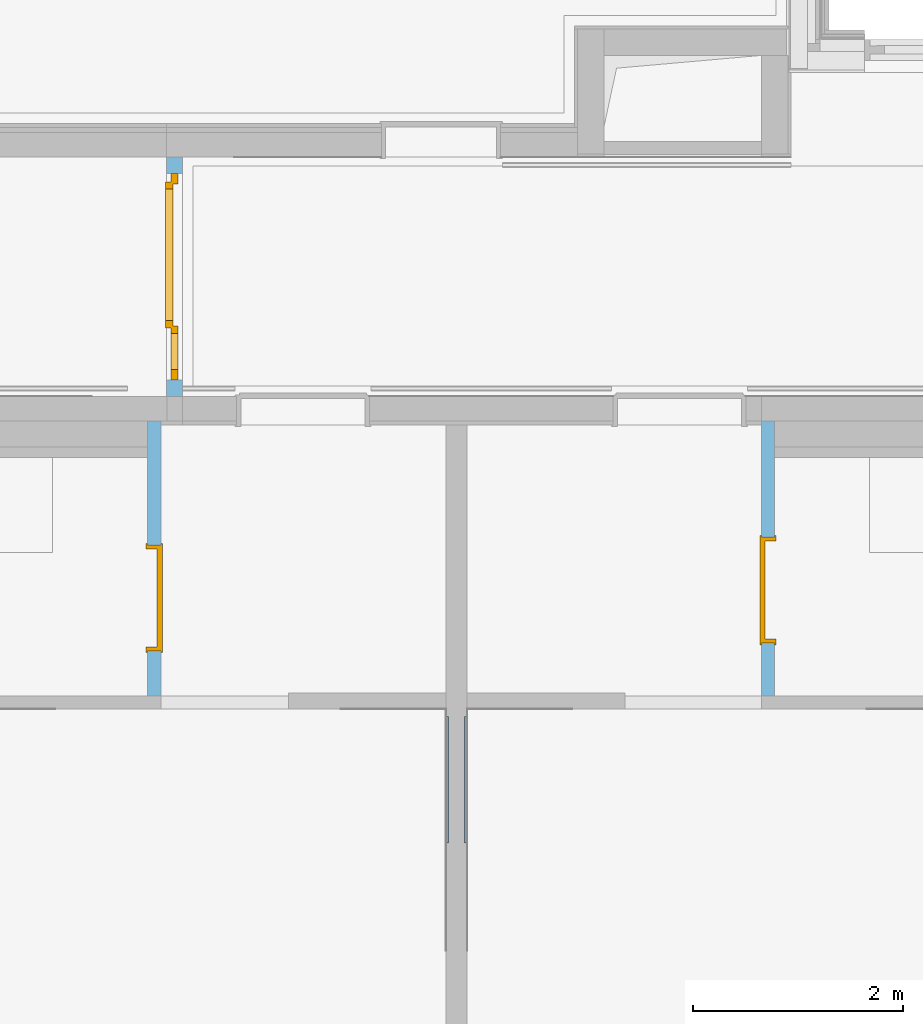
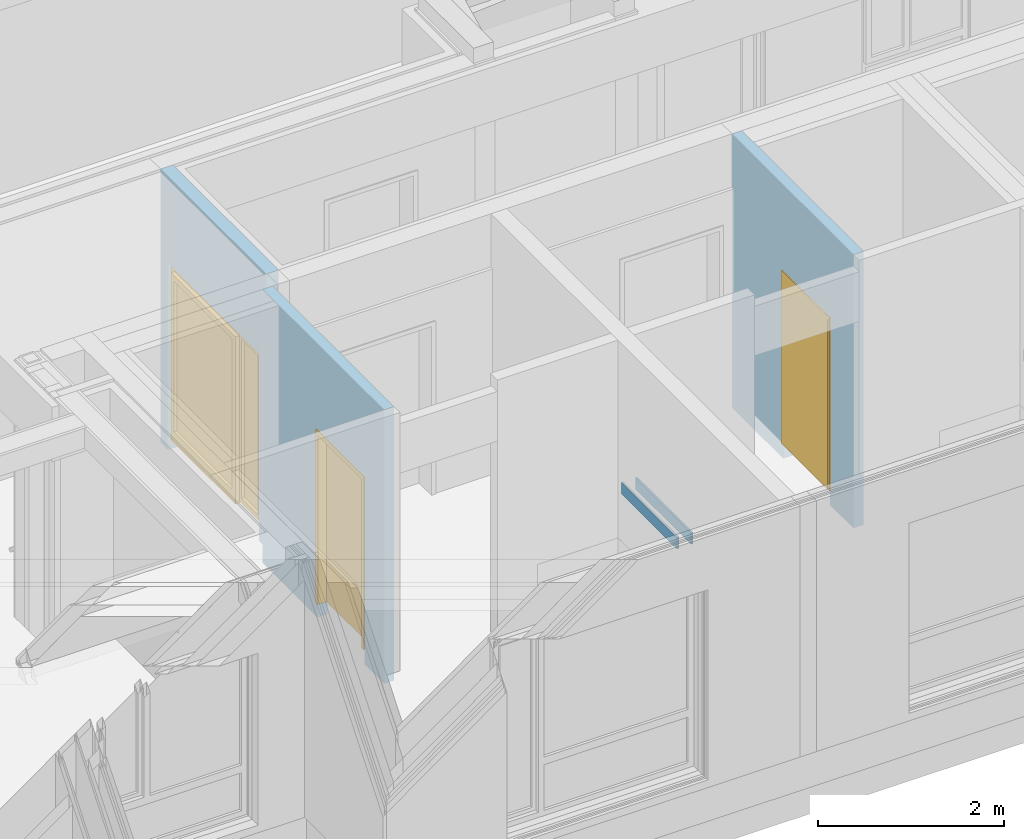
# One storey, part 122 of 207: 3 doors, 2 walls, 3 openings, plus 3 elements that do not belong to this part.
"""IFC4 building model written with IfcOpenShell, lengths in metres."""

from ifc_helpers import new_model, entity, si_unit, converted_unit, derived_unit, frame, frame_2d, origin, origin_with_axes, place, context, subcontext, project, spatial, polyline, rectangle, outline, extrude, closed_shell, open_shell, faceted_brep, surface_model, source, transform, mapped, material, type_object, element, fill, save


model = new_model("IFC4")

# Units and contexts
model_context = context("Model", 3, precision=1e-05, world=origin())
body_context = subcontext(model_context, "Body", "Model", "MODEL_VIEW")
ifc_project = project(units=[si_unit("LENGTHUNIT", "METRE"), si_unit("AREAUNIT", "SQUARE_METRE"), si_unit("VOLUMEUNIT", "CUBIC_METRE"), si_unit("MASSUNIT", "GRAM", prefix="KILO"), converted_unit("PLANEANGLEUNIT", "DEGREE", entity("IfcPlaneAngleMeasure", 0.0174532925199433), si_unit("PLANEANGLEUNIT", "RADIAN"), dimensions=[0, 0, 0, 0, 0, 0, 0]), derived_unit("THERMALTRANSMITTANCEUNIT", [(si_unit("POWERUNIT", "WATT"), 1), (si_unit("THERMODYNAMICTEMPERATUREUNIT", "KELVIN"), -1), (si_unit("LENGTHUNIT", "METRE"), -2)]), derived_unit("VOLUMETRICFLOWRATEUNIT", [(si_unit("LENGTHUNIT", "METRE"), 3), (converted_unit("TIMEUNIT", "hour", entity("IfcTimeMeasure", 3600.0), si_unit("TIMEUNIT", "SECOND"), dimensions=[0, 0, 1, 0, 0, 0, 0]), -1), (si_unit("LENGTHUNIT", "METRE"), -1)])], contexts=[model_context])

# Site, building, storey
site_placement = place(None, origin())
site = spatial("IfcSite", under=ifc_project, at=site_placement, Name="Psychiatrie Neubau Wunstorf", CompositionType="ELEMENT")
building_placement = place(site_placement, origin())
building = spatial("IfcBuilding", under=site, at=building_placement, Name="Neubau H2 Stationsgebäude", CompositionType="ELEMENT")
storey_placement = place(building_placement, frame((0.0, 0.0, -0.2)))
storey = spatial("IfcBuildingStorey", under=building, at=storey_placement, Name="H2 Ebene 0", CompositionType="ELEMENT", Elevation=-0.2)

# Walls
for number, where, name in (
    (1, (75.9, 1.08720005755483, 1.625), "WV 1.1"),
    (2, (76.075, 1.08720000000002, 1.625), "WV 1.1"),
):
    element("IfcWall", number, at=place(storey_placement, frame(where)), inside=storey, Name=name, context=body_context, shape_type="Brep", body=[
        faceted_brep([(0.025, 1.2, 0.0), (0.0, 1.2, 0.0), (0.0, 0.0, 0.0), (0.025, 0.0, 0.0), (0.0, 1.2, 0.15), (0.025, 1.2, 0.15), (0.025, 0.0, 0.15), (0.0, 0.0, 0.15)], [[[0, 1, 2, 3]], [[4, 5, 6, 7]], [[1, 0, 5, 4]], [[2, 1, 4, 7]], [[3, 2, 7, 6]], [[0, 3, 6, 5]]], orient=[[False], [False], [False], [False], [False], [False]]),
    ])

# Wall, opening, door
ifc_material_1 = material(Name="WI-LB")
wall_1_placement = place(storey_placement, frame((78.9, 5.1005, 0.0), z_axis=(0.0, 0.0, 1.0), x_axis=(0.0, -1.0, 0.0)))
wall_1 = element("IfcWall", 3, at=wall_1_placement, inside=storey, material=ifc_material_1, context=body_context, shape_type="SweptSolid", body=[
    extrude(rectangle(XDim=2.615, YDim=0.125, at=frame_2d((1.3075, 0.0625), x_axis=(1.0, 0.0))), origin_with_axes(), (0.0, 0.0, 1.0), 3.6),
])
opening_1_placement = place(wall_1_placement, frame((2.115, 0.125, 0.0), z_axis=(0.0, -1.0, 0.0), x_axis=(0.0, 0.0, 1.0)))
opening_1 = element("IfcOpeningElement", 4, at=opening_1_placement, cuts=wall_1, Name="Türöffnung", ObjectType="Opening", context=body_context, shape_type="SweptSolid", body=[
    extrude(outline(polyline([(2.46, 1.01), (2.46, 0.0), (0.0, 0.0), (0.0, 1.01), (2.46, 1.01)])), origin_with_axes(), (0.0, 0.0, 1.0), 0.125),
])
ifc_material_2 = material(Name="TI-1F-UZ-D-N")
door_type_1 = type_object("IfcDoorType", Name="SMT", OperationType="SINGLE_SWING_RIGHT", ParameterTakesPrecedence=False, PredefinedType="DOOR")
shared_shape_1 = source(origin_with_axes(), body_context, "Body", "Brep", [
    faceted_brep([(1.05, 0.0125000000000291, 0.0), (1.05, 0.112500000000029, 0.0), (1.01, 0.112500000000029, 0.0), (1.01, 0.0125000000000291, 0.0), (1.05, 0.112500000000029, 3.6), (1.05, 0.0125000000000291, 3.6), (1.01, 0.0125000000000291, 3.6), (1.01, 0.112500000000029, 3.6)], [[[0, 1, 2, 3]], [[4, 5, 6, 7]], [[1, 0, 5, 4]], [[2, 1, 4, 7]], [[3, 2, 7, 6]], [[0, 3, 6, 5]]], orient=[[False], [False], [False], [False], [False], [False]]),
    faceted_brep([(0.0, 0.0125000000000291, 0.0), (0.0, 0.112500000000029, 0.0), (-0.0400000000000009, 0.112500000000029, 0.0), (-0.0400000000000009, 0.0125000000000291, 0.0), (0.0, 0.112500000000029, 3.6), (0.0, 0.0125000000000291, 3.6), (-0.0400000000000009, 0.0125000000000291, 3.6), (-0.0400000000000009, 0.112500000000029, 3.6)], [[[0, 1, 2, 3]], [[4, 5, 6, 7]], [[1, 0, 5, 4]], [[2, 1, 4, 7]], [[3, 2, 7, 6]], [[0, 3, 6, 5]]], orient=[[False], [False], [False], [False], [False], [False]]),
    faceted_brep([(1.01, 0.0125000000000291, 2.46), (1.01, 0.112500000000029, 2.46), (0.0, 0.112500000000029, 2.46), (0.0, 0.0125000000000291, 2.46), (1.01, 0.112500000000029, 2.5), (1.01, 0.0125000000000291, 2.5), (0.0, 0.0125000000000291, 2.5), (0.0, 0.112500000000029, 2.5)], [[[0, 1, 2, 3]], [[4, 5, 6, 7]], [[1, 0, 5, 4]], [[2, 1, 4, 7]], [[3, 2, 7, 6]], [[0, 3, 6, 5]]], orient=[[False], [False], [False], [False], [False], [False]]),
])
shared_shape_2 = source(origin_with_axes(), body_context, "Body", "Brep", [
    faceted_brep([(1.01, -0.0149999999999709, 2.46), (1.01, -0.0149999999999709, 0.2), (0.969999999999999, -0.0149999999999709, 0.2), (0.969999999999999, -0.0149999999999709, 2.46), (1.01, 0.140000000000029, 0.2), (1.01, 0.140000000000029, 2.46), (0.969999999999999, 0.140000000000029, 2.46), (0.969999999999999, 0.140000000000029, 0.2)], [[[0, 1, 2, 3]], [[4, 5, 6, 7]], [[1, 0, 5, 4]], [[2, 1, 4, 7]], [[3, 2, 7, 6]], [[0, 3, 6, 5]]], orient=[[False], [False], [False], [False], [False], [False]]),
    faceted_brep([(1.01, -0.0149999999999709, 2.475), (1.025, -0.0149999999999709, 2.475), (1.025, -0.0149999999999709, 0.2), (1.01, -0.0149999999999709, 0.2), (1.01, 0.0, 0.2), (1.025, 0.0, 0.2), (1.025, 0.0, 2.475), (1.01, 0.0, 2.475)], [[[0, 1, 2, 3]], [[4, 5, 6, 7]], [[3, 4, 7, 0]], [[2, 5, 4, 3]], [[1, 6, 5, 2]], [[0, 7, 6, 1]]], orient=[[False], [False], [False], [False], [False], [False]]),
    faceted_brep([(1.01, 0.125000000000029, 2.475), (1.025, 0.125000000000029, 2.475), (1.025, 0.125000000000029, 0.2), (1.01, 0.125000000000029, 0.2), (1.01, 0.140000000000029, 0.2), (1.025, 0.140000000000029, 0.2), (1.025, 0.140000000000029, 2.475), (1.01, 0.140000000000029, 2.475)], [[[0, 1, 2, 3]], [[4, 5, 6, 7]], [[3, 4, 7, 0]], [[2, 5, 4, 3]], [[1, 6, 5, 2]], [[0, 7, 6, 1]]], orient=[[False], [False], [False], [False], [False], [False]]),
    faceted_brep([(0.0399999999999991, -0.0149999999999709, 2.46), (0.0399999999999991, -0.0149999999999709, 0.2), (0.0, -0.0149999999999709, 0.2), (0.0, -0.0149999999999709, 2.46), (0.0399999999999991, 0.140000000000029, 0.2), (0.0399999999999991, 0.140000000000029, 2.46), (0.0, 0.140000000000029, 2.46), (0.0, 0.140000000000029, 0.2)], [[[0, 1, 2, 3]], [[4, 5, 6, 7]], [[1, 0, 5, 4]], [[2, 1, 4, 7]], [[3, 2, 7, 6]], [[0, 3, 6, 5]]], orient=[[False], [False], [False], [False], [False], [False]]),
    faceted_brep([(0.0, -0.0149999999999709, 2.475), (0.0, -0.0149999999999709, 0.2), (-0.0150000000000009, -0.0149999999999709, 0.2), (-0.0150000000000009, -0.0149999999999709, 2.475), (0.0, 0.0, 0.2), (0.0, 0.0, 2.475), (-0.0150000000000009, 0.0, 2.475), (-0.0150000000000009, 0.0, 0.2)], [[[0, 1, 2, 3]], [[4, 5, 6, 7]], [[1, 0, 5, 4]], [[2, 1, 4, 7]], [[3, 2, 7, 6]], [[0, 3, 6, 5]]], orient=[[False], [False], [False], [False], [False], [False]]),
    faceted_brep([(0.0, 0.125000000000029, 2.475), (0.0, 0.125000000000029, 0.2), (-0.0150000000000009, 0.125000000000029, 0.2), (-0.0150000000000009, 0.125000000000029, 2.475), (0.0, 0.140000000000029, 0.2), (0.0, 0.140000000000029, 2.475), (-0.0150000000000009, 0.140000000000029, 2.475), (-0.0150000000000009, 0.140000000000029, 0.2)], [[[0, 1, 2, 3]], [[4, 5, 6, 7]], [[1, 0, 5, 4]], [[2, 1, 4, 7]], [[3, 2, 7, 6]], [[0, 3, 6, 5]]], orient=[[False], [False], [False], [False], [False], [False]]),
    faceted_brep([(0.969999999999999, -0.0149999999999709, 2.46), (0.969999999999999, -0.0149999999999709, 2.42), (0.0399999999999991, -0.0149999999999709, 2.42), (0.0399999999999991, -0.0149999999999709, 2.46), (0.969999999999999, 0.140000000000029, 2.42), (0.969999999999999, 0.140000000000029, 2.46), (0.0399999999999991, 0.140000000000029, 2.46), (0.0399999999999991, 0.140000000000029, 2.42)], [[[0, 1, 2, 3]], [[4, 5, 6, 7]], [[1, 0, 5, 4]], [[2, 1, 4, 7]], [[3, 2, 7, 6]], [[0, 3, 6, 5]]], orient=[[False], [False], [False], [False], [False], [False]]),
    faceted_brep([(1.01, -0.0149999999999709, 2.475), (1.01, -0.0149999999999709, 2.46), (0.0, -0.0149999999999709, 2.46), (0.0, -0.0149999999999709, 2.475), (1.01, 0.0, 2.46), (1.01, 0.0, 2.475), (0.0, 0.0, 2.475), (0.0, 0.0, 2.46)], [[[0, 1, 2, 3]], [[4, 5, 6, 7]], [[1, 0, 5, 4]], [[2, 1, 4, 7]], [[3, 2, 7, 6]], [[0, 3, 6, 5]]], orient=[[False], [False], [False], [False], [False], [False]]),
    faceted_brep([(1.01, 0.125000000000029, 2.475), (1.01, 0.125000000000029, 2.46), (0.0, 0.125000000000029, 2.46), (0.0, 0.125000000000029, 2.475), (1.01, 0.140000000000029, 2.46), (1.01, 0.140000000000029, 2.475), (0.0, 0.140000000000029, 2.475), (0.0, 0.140000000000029, 2.46)], [[[0, 1, 2, 3]], [[4, 5, 6, 7]], [[1, 0, 5, 4]], [[2, 1, 4, 7]], [[3, 2, 7, 6]], [[0, 3, 6, 5]]], orient=[[False], [False], [False], [False], [False], [False]]),
    faceted_brep([(0.984999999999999, 0.0910000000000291, 2.435), (0.984999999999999, 0.0910000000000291, 0.2), (0.0249999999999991, 0.0910000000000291, 0.2), (0.0249999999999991, 0.0910000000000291, 2.435), (0.984999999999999, 0.141000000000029, 0.2), (0.984999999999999, 0.141000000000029, 2.435), (0.0249999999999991, 0.141000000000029, 2.435), (0.0249999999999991, 0.141000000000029, 0.2)], [[[0, 1, 2, 3]], [[4, 5, 6, 7]], [[1, 0, 5, 4]], [[2, 1, 4, 7]], [[3, 2, 7, 6]], [[0, 3, 6, 5]]], orient=[[False], [False], [False], [False], [False], [False]]),
])
door_1_placement = place(opening_1_placement, frame((0.0, 0.0, 0.0), z_axis=(1.0, 0.0, 0.0), x_axis=(0.0, 1.0, 0.0)))
door_1 = element("IfcDoor", 5, at=door_1_placement, inside=storey, type_object=door_type_1, material=ifc_material_2, Name="SMT", OverallHeight=2.46, OverallWidth=1.01, context=body_context, shape_type="MappedRepresentation", body=[
    mapped(shared_shape_1, transform((0.0, 0.0, 0.0), x_axis=(1.0, 0.0, 0.0), y_axis=(0.0, 1.0, 0.0), z_axis=(0.0, 0.0, 1.0), scale=1.0)),
    mapped(shared_shape_2, transform((0.0, 0.0, 0.0), x_axis=(1.0, 0.0, 0.0), y_axis=(0.0, 1.0, 0.0), z_axis=(0.0, 0.0, 1.0), scale=1.0)),
])
fill(opening_1, door_1)

ifc_material_3 = material(Name="WI-LB")
wall_2_placement = place(storey_placement, frame((73.1875, 2.4855, 0.0), z_axis=(0.0, 0.0, 1.0), x_axis=(0.0, 1.0, 0.0)))
wall_2 = element("IfcWall", 6, at=wall_2_placement, inside=storey, material=ifc_material_3, context=body_context, shape_type="SweptSolid", body=[
    extrude(rectangle(XDim=2.615, YDim=0.125, at=frame_2d((1.3075, 0.0625), x_axis=(1.0, 0.0))), origin_with_axes(), (0.0, 0.0, 1.0), 3.6),
])
opening_2_placement = place(wall_2_placement, frame((1.435, 0.125, 0.0), z_axis=(0.0, -1.0, 0.0), x_axis=(0.0, 0.0, 1.0)))
opening_2 = element("IfcOpeningElement", 7, at=opening_2_placement, cuts=wall_2, Name="Türöffnung", ObjectType="Opening", context=body_context, shape_type="SweptSolid", body=[
    extrude(outline(polyline([(2.46, 1.01), (2.46, 0.0), (0.0, 0.0), (0.0, 1.01), (2.46, 1.01)])), origin_with_axes(), (0.0, 0.0, 1.0), 0.125),
])
ifc_material_4 = material(Name="TI-1F-UZ-D-N")
door_type_2 = type_object("IfcDoorType", Name="SMT", OperationType="SINGLE_SWING_RIGHT", ParameterTakesPrecedence=False, PredefinedType="DOOR")
shared_shape_3 = source(origin_with_axes(), body_context, "Body", "Brep", [
    faceted_brep([(-0.0399999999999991, 0.0124999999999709, 0.0), (0.0, 0.0124999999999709, 0.0), (0.0, 0.112499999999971, 0.0), (-0.0399999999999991, 0.112499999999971, 0.0), (-0.0399999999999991, 0.112499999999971, 3.6), (0.0, 0.112499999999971, 3.6), (0.0, 0.0124999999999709, 3.6), (-0.0399999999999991, 0.0124999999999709, 3.6)], [[[0, 1, 2, 3]], [[4, 5, 6, 7]], [[3, 4, 7, 0]], [[2, 5, 4, 3]], [[1, 6, 5, 2]], [[0, 7, 6, 1]]], orient=[[False], [False], [False], [False], [False], [False]]),
    faceted_brep([(1.01, 0.0124999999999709, 0.0), (1.05, 0.0124999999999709, 0.0), (1.05, 0.112499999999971, 0.0), (1.01, 0.112499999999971, 0.0), (1.01, 0.112499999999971, 3.6), (1.05, 0.112499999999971, 3.6), (1.05, 0.0124999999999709, 3.6), (1.01, 0.0124999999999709, 3.6)], [[[0, 1, 2, 3]], [[4, 5, 6, 7]], [[3, 4, 7, 0]], [[2, 5, 4, 3]], [[1, 6, 5, 2]], [[0, 7, 6, 1]]], orient=[[False], [False], [False], [False], [False], [False]]),
    faceted_brep([(0.0, 0.0124999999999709, 2.46), (1.01, 0.0124999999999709, 2.46), (1.01, 0.112499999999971, 2.46), (0.0, 0.112499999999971, 2.46), (0.0, 0.112499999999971, 2.5), (1.01, 0.112499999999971, 2.5), (1.01, 0.0124999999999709, 2.5), (0.0, 0.0124999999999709, 2.5)], [[[0, 1, 2, 3]], [[4, 5, 6, 7]], [[3, 4, 7, 0]], [[2, 5, 4, 3]], [[1, 6, 5, 2]], [[0, 7, 6, 1]]], orient=[[False], [False], [False], [False], [False], [False]]),
])
shared_shape_4 = source(origin_with_axes(), body_context, "Body", "Brep", [
    faceted_brep([(0.0, -0.0150000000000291, 2.46), (0.0400000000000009, -0.0150000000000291, 2.46), (0.0400000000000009, -0.0150000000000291, 0.2), (0.0, -0.0150000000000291, 0.2), (0.0, 0.139999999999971, 0.2), (0.0400000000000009, 0.139999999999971, 0.2), (0.0400000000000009, 0.139999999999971, 2.46), (0.0, 0.139999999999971, 2.46)], [[[0, 1, 2, 3]], [[4, 5, 6, 7]], [[3, 4, 7, 0]], [[2, 5, 4, 3]], [[1, 6, 5, 2]], [[0, 7, 6, 1]]], orient=[[False], [False], [False], [False], [False], [False]]),
    faceted_brep([(0.0, -0.0150000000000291, 2.475), (0.0, -0.0150000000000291, 0.2), (-0.0149999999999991, -0.0150000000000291, 0.2), (-0.0149999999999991, -0.0150000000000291, 2.475), (0.0, 0.0, 0.2), (0.0, 0.0, 2.475), (-0.0149999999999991, 0.0, 2.475), (-0.0149999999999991, 0.0, 0.2)], [[[0, 1, 2, 3]], [[4, 5, 6, 7]], [[1, 0, 5, 4]], [[2, 1, 4, 7]], [[3, 2, 7, 6]], [[0, 3, 6, 5]]], orient=[[False], [False], [False], [False], [False], [False]]),
    faceted_brep([(0.0, 0.124999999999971, 2.475), (0.0, 0.124999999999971, 0.2), (-0.0149999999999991, 0.124999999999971, 0.2), (-0.0149999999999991, 0.124999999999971, 2.475), (0.0, 0.139999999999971, 0.2), (0.0, 0.139999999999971, 2.475), (-0.0149999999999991, 0.139999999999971, 2.475), (-0.0149999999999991, 0.139999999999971, 0.2)], [[[0, 1, 2, 3]], [[4, 5, 6, 7]], [[1, 0, 5, 4]], [[2, 1, 4, 7]], [[3, 2, 7, 6]], [[0, 3, 6, 5]]], orient=[[False], [False], [False], [False], [False], [False]]),
    faceted_brep([(0.970000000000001, -0.0150000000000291, 2.46), (1.01, -0.0150000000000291, 2.46), (1.01, -0.0150000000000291, 0.2), (0.970000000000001, -0.0150000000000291, 0.2), (0.970000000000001, 0.139999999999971, 0.2), (1.01, 0.139999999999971, 0.2), (1.01, 0.139999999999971, 2.46), (0.970000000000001, 0.139999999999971, 2.46)], [[[0, 1, 2, 3]], [[4, 5, 6, 7]], [[3, 4, 7, 0]], [[2, 5, 4, 3]], [[1, 6, 5, 2]], [[0, 7, 6, 1]]], orient=[[False], [False], [False], [False], [False], [False]]),
    faceted_brep([(1.01, -0.0150000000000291, 2.475), (1.025, -0.0150000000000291, 2.475), (1.025, -0.0150000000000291, 0.2), (1.01, -0.0150000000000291, 0.2), (1.01, 0.0, 0.2), (1.025, 0.0, 0.2), (1.025, 0.0, 2.475), (1.01, 0.0, 2.475)], [[[0, 1, 2, 3]], [[4, 5, 6, 7]], [[3, 4, 7, 0]], [[2, 5, 4, 3]], [[1, 6, 5, 2]], [[0, 7, 6, 1]]], orient=[[False], [False], [False], [False], [False], [False]]),
    faceted_brep([(1.01, 0.124999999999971, 2.475), (1.025, 0.124999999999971, 2.475), (1.025, 0.124999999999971, 0.2), (1.01, 0.124999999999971, 0.2), (1.01, 0.139999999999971, 0.2), (1.025, 0.139999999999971, 0.2), (1.025, 0.139999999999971, 2.475), (1.01, 0.139999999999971, 2.475)], [[[0, 1, 2, 3]], [[4, 5, 6, 7]], [[3, 4, 7, 0]], [[2, 5, 4, 3]], [[1, 6, 5, 2]], [[0, 7, 6, 1]]], orient=[[False], [False], [False], [False], [False], [False]]),
    faceted_brep([(0.0400000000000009, -0.0150000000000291, 2.46), (0.970000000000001, -0.0150000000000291, 2.46), (0.970000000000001, -0.0150000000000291, 2.42), (0.0400000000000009, -0.0150000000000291, 2.42), (0.0400000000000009, 0.139999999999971, 2.42), (0.970000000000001, 0.139999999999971, 2.42), (0.970000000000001, 0.139999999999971, 2.46), (0.0400000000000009, 0.139999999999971, 2.46)], [[[0, 1, 2, 3]], [[4, 5, 6, 7]], [[3, 4, 7, 0]], [[2, 5, 4, 3]], [[1, 6, 5, 2]], [[0, 7, 6, 1]]], orient=[[False], [False], [False], [False], [False], [False]]),
    faceted_brep([(0.0, -0.0150000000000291, 2.475), (1.01, -0.0150000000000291, 2.475), (1.01, -0.0150000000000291, 2.46), (0.0, -0.0150000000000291, 2.46), (0.0, 0.0, 2.46), (1.01, 0.0, 2.46), (1.01, 0.0, 2.475), (0.0, 0.0, 2.475)], [[[0, 1, 2, 3]], [[4, 5, 6, 7]], [[3, 4, 7, 0]], [[2, 5, 4, 3]], [[1, 6, 5, 2]], [[0, 7, 6, 1]]], orient=[[False], [False], [False], [False], [False], [False]]),
    faceted_brep([(0.0, 0.124999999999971, 2.475), (1.01, 0.124999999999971, 2.475), (1.01, 0.124999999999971, 2.46), (0.0, 0.124999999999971, 2.46), (0.0, 0.139999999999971, 2.46), (1.01, 0.139999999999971, 2.46), (1.01, 0.139999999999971, 2.475), (0.0, 0.139999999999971, 2.475)], [[[0, 1, 2, 3]], [[4, 5, 6, 7]], [[3, 4, 7, 0]], [[2, 5, 4, 3]], [[1, 6, 5, 2]], [[0, 7, 6, 1]]], orient=[[False], [False], [False], [False], [False], [False]]),
    faceted_brep([(0.0250000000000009, 0.0909999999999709, 2.435), (0.985000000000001, 0.0909999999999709, 2.435), (0.985000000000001, 0.0909999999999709, 0.2), (0.0250000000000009, 0.0909999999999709, 0.2), (0.0250000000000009, 0.140999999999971, 0.2), (0.985000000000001, 0.140999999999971, 0.2), (0.985000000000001, 0.140999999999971, 2.435), (0.0250000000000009, 0.140999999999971, 2.435)], [[[0, 1, 2, 3]], [[4, 5, 6, 7]], [[3, 4, 7, 0]], [[2, 5, 4, 3]], [[1, 6, 5, 2]], [[0, 7, 6, 1]]], orient=[[False], [False], [False], [False], [False], [False]]),
])
door_2_placement = place(opening_2_placement, frame((0.0, 0.0, 0.0), z_axis=(1.0, 0.0, 0.0), x_axis=(0.0, 1.0, 0.0)))
door_2 = element("IfcDoor", 8, at=door_2_placement, inside=storey, type_object=door_type_2, material=ifc_material_4, Name="SMT", OverallHeight=2.46, OverallWidth=1.01, context=body_context, shape_type="MappedRepresentation", body=[
    mapped(shared_shape_3, transform((0.0, 0.0, 0.0), x_axis=(1.0, 0.0, 0.0), y_axis=(0.0, 1.0, 0.0), z_axis=(0.0, 0.0, 1.0), scale=1.0)),
    mapped(shared_shape_4, transform((0.0, 0.0, 0.0), x_axis=(1.0, 0.0, 0.0), y_axis=(0.0, 1.0, 0.0), z_axis=(0.0, 0.0, 1.0), scale=1.0)),
])
fill(opening_2, door_2)

ifc_material_5 = material(Name="WI-LB")
wall_3_placement = place(storey_placement, frame((73.3949999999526, 5.3325, 0.0), z_axis=(0.0, 0.0, 1.0), x_axis=(0.0, 1.0, 0.0)))
wall_3 = element("IfcWall", 9, at=wall_3_placement, inside=storey, material=ifc_material_5, context=body_context, shape_type="SweptSolid", body=[
    extrude(rectangle(XDim=2.275, YDim=0.155, at=frame_2d((1.1375, 0.0775), x_axis=(1.0, 0.0))), origin_with_axes(), (0.0, 0.0, 1.0), 3.6),
])
opening_3_placement = place(wall_3_placement, frame((0.155000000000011, 0.0, 0.0), z_axis=(0.0, 1.0, 0.0), x_axis=(0.0, 0.0, 1.0)))
opening_3 = element("IfcOpeningElement", 10, at=opening_3_placement, cuts=wall_3, Name="Türöffnung", ObjectType="Opening", context=body_context, shape_type="SweptSolid", body=[
    extrude(outline(polyline([(2.46, 1.965), (2.46, 0.0), (0.0, 0.0), (0.0, 1.965), (2.46, 1.965)])), origin_with_axes(), (0.0, 0.0, 1.0), 0.155),
])
ifc_material_6 = material(Name="TI-2F-AG-D-O")
shared_shape_5 = source(origin_with_axes(), body_context, "Body", "Brep", [
    faceted_brep([(2.0925, -0.0144999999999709, 0.0), (2.0925, 0.0855000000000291, 0.0), (1.9925, 0.0855000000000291, 0.0), (1.9925, -0.0144999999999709, 0.0), (2.0925, 0.0855000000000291, 3.6), (2.0925, -0.0144999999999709, 3.6), (1.9925, -0.0144999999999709, 3.6), (1.9925, 0.0855000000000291, 3.6)], [[[0, 1, 2, 3]], [[4, 5, 6, 7]], [[1, 0, 5, 4]], [[2, 1, 4, 7]], [[3, 2, 7, 6]], [[0, 3, 6, 5]]], orient=[[False], [False], [False], [False], [False], [False]]),
    faceted_brep([(-0.0275000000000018, -0.0144999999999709, 0.0), (-0.0275000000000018, 0.0855000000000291, 0.0), (-0.127500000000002, 0.0855000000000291, 0.0), (-0.127500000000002, -0.0144999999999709, 0.0), (-0.0275000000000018, 0.0855000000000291, 3.6), (-0.0275000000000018, -0.0144999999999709, 3.6), (-0.127500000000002, -0.0144999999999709, 3.6), (-0.127500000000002, 0.0855000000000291, 3.6)], [[[0, 1, 2, 3]], [[4, 5, 6, 7]], [[1, 0, 5, 4]], [[2, 1, 4, 7]], [[3, 2, 7, 6]], [[0, 3, 6, 5]]], orient=[[False], [False], [False], [False], [False], [False]]),
    faceted_brep([(1.9925, -0.0144999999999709, 2.4875), (1.9925, 0.0855000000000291, 2.4875), (-0.0275000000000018, 0.0855000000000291, 2.4875), (-0.0275000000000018, -0.0144999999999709, 2.4875), (1.9925, 0.0855000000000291, 2.5875), (1.9925, -0.0144999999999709, 2.5875), (-0.0275000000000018, -0.0144999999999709, 2.5875), (-0.0275000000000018, 0.0855000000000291, 2.5875)], [[[0, 1, 2, 3]], [[4, 5, 6, 7]], [[1, 0, 5, 4]], [[2, 1, 4, 7]], [[3, 2, 7, 6]], [[0, 3, 6, 5]]], orient=[[False], [False], [False], [False], [False], [False]]),
])
shared_shape_6 = source(origin_with_axes(), body_context, "Body", "SurfaceModel", [
    surface_model("IfcShellBasedSurfaceModel", [(1.965, 0.000500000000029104, 2.46), (1.965, 0.000500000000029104, 0.2), (1.865, 0.000500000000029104, 0.2), (1.865, 0.000500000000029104, 2.46), (1.965, 0.0705000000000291, 0.2), (1.965, 0.0705000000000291, 2.46), (1.865, 0.0705000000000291, 2.46), (1.865, 0.0705000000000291, 0.2)], [closed_shell([[[0, 1, 2, 3]], [[4, 5, 6, 7]], [[1, 0, 5, 4]], [[2, 1, 4, 7]], [[3, 2, 7, 6]], [[0, 3, 6, 5]]], orient=[[False], [False], [False], [False], [False], [False]])]),
    surface_model("IfcShellBasedSurfaceModel", [(0.0999999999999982, 0.000500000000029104, 2.46), (0.0999999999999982, 0.000500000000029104, 0.2), (0.0, 0.000500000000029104, 0.2), (0.0, 0.000500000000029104, 2.46), (0.0999999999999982, 0.0705000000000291, 0.2), (0.0999999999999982, 0.0705000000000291, 2.46), (0.0, 0.0705000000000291, 2.46), (0.0, 0.0705000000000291, 0.2)], [closed_shell([[[0, 1, 2, 3]], [[4, 5, 6, 7]], [[1, 0, 5, 4]], [[2, 1, 4, 7]], [[3, 2, 7, 6]], [[0, 3, 6, 5]]], orient=[[False], [False], [False], [False], [False], [False]])]),
    surface_model("IfcShellBasedSurfaceModel", [(1.865, 0.000500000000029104, 2.46), (1.865, 0.000500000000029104, 2.36), (0.0999999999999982, 0.000500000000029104, 2.36), (0.0999999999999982, 0.000500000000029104, 2.46), (1.865, 0.0705000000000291, 2.36), (1.865, 0.0705000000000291, 2.46), (0.0999999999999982, 0.0705000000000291, 2.46), (0.0999999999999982, 0.0705000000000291, 2.36)], [closed_shell([[[0, 1, 2, 3]], [[4, 5, 6, 7]], [[1, 0, 5, 4]], [[2, 1, 4, 7]], [[3, 2, 7, 6]], [[0, 3, 6, 5]]], orient=[[False], [False], [False], [False], [False], [False]])]),
    surface_model("IfcShellBasedSurfaceModel", [(0.514999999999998, 0.000500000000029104, 2.36), (0.514999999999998, 0.000500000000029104, 0.2), (0.444999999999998, 0.000500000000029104, 0.2), (0.444999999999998, 0.000500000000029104, 2.36), (0.514999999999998, 0.0705000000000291, 0.2), (0.514999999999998, 0.0705000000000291, 2.36), (0.444999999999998, 0.0705000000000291, 2.36), (0.444999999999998, 0.0705000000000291, 0.2)], [closed_shell([[[0, 1, 2, 3]], [[4, 5, 6, 7]], [[1, 0, 5, 4]], [[2, 1, 4, 7]], [[3, 2, 7, 6]], [[0, 3, 6, 5]]], orient=[[False], [False], [False], [False], [False], [False]])]),
    surface_model("IfcShellBasedSurfaceModel", [(1.885, 0.0505000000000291, 2.38), (1.885, 0.0505000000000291, 0.18), (1.815, 0.0505000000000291, 0.18), (1.815, 0.0505000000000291, 2.38), (1.885, 0.120500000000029, 0.18), (1.885, 0.120500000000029, 2.38), (1.815, 0.120500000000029, 2.38), (1.815, 0.120500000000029, 0.18)], [closed_shell([[[0, 1, 2, 3]], [[4, 5, 6, 7]], [[1, 0, 5, 4]], [[2, 1, 4, 7]], [[3, 2, 7, 6]], [[0, 3, 6, 5]]], orient=[[False], [False], [False], [False], [False], [False]])]),
    surface_model("IfcShellBasedSurfaceModel", [(0.564999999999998, 0.0505000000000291, 2.38), (0.564999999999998, 0.0505000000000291, 0.18), (0.494999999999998, 0.0505000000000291, 0.18), (0.494999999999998, 0.0505000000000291, 2.38), (0.564999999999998, 0.120500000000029, 0.18), (0.564999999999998, 0.120500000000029, 2.38), (0.494999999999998, 0.120500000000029, 2.38), (0.494999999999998, 0.120500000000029, 0.18)], [closed_shell([[[0, 1, 2, 3]], [[4, 5, 6, 7]], [[1, 0, 5, 4]], [[2, 1, 4, 7]], [[3, 2, 7, 6]], [[0, 3, 6, 5]]], orient=[[False], [False], [False], [False], [False], [False]])]),
    surface_model("IfcShellBasedSurfaceModel", [(1.815, 0.0505000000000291, 0.33), (1.815, 0.0505000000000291, 0.18), (0.564999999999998, 0.0505000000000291, 0.18), (0.564999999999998, 0.0505000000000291, 0.33), (1.815, 0.120500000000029, 0.18), (1.815, 0.120500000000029, 0.33), (0.564999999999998, 0.120500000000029, 0.33), (0.564999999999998, 0.120500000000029, 0.18)], [closed_shell([[[0, 1, 2, 3]], [[4, 5, 6, 7]], [[1, 0, 5, 4]], [[2, 1, 4, 7]], [[3, 2, 7, 6]], [[0, 3, 6, 5]]], orient=[[False], [False], [False], [False], [False], [False]])]),
    surface_model("IfcShellBasedSurfaceModel", [(1.815, 0.0505000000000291, 2.38), (1.815, 0.0505000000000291, 2.31), (0.564999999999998, 0.0505000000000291, 2.31), (0.564999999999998, 0.0505000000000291, 2.38), (1.815, 0.120500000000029, 2.31), (1.815, 0.120500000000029, 2.38), (0.564999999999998, 0.120500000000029, 2.38), (0.564999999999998, 0.120500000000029, 2.31)], [closed_shell([[[0, 1, 2, 3]], [[4, 5, 6, 7]], [[1, 0, 5, 4]], [[2, 1, 4, 7]], [[3, 2, 7, 6]], [[0, 3, 6, 5]]], orient=[[False], [False], [False], [False], [False], [False]])]),
    surface_model("IfcShellBasedSurfaceModel", [(0.444999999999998, 0.000500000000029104, 0.27), (0.444999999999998, 0.000500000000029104, 0.2), (0.0999999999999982, 0.000500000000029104, 0.2), (0.0999999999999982, 0.000500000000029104, 0.27), (0.444999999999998, 0.0705000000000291, 0.2), (0.444999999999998, 0.0705000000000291, 0.27), (0.0999999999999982, 0.0705000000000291, 0.27), (0.0999999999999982, 0.0705000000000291, 0.2)], [closed_shell([[[0, 1, 2, 3]], [[4, 5, 6, 7]], [[1, 0, 5, 4]], [[2, 1, 4, 7]], [[3, 2, 7, 6]], [[0, 3, 6, 5]]], orient=[[False], [False], [False], [False], [False], [False]])]),
    surface_model("IfcShellBasedSurfaceModel", [(1.815, 0.0855000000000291, 0.33), (0.564999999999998, 0.0855000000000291, 0.33), (0.564999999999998, 0.0855000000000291, 2.31), (1.815, 0.0855000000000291, 2.31)], [open_shell([[[0, 1, 2, 3]]], orient=[[False]])]),
    surface_model("IfcShellBasedSurfaceModel", [(0.444999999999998, 0.0355000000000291, 0.27), (0.0999999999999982, 0.0355000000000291, 0.27), (0.0999999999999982, 0.0355000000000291, 2.36), (0.444999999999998, 0.0355000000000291, 2.36)], [open_shell([[[0, 1, 2, 3]]], orient=[[False]])]),
])
door_3_placement = place(opening_3_placement, frame((0.0, 0.0, 0.042), z_axis=(1.0, 0.0, 0.0), x_axis=(0.0, 1.0, 0.0)))
door_3 = element("IfcDoor", 11, at=door_3_placement, inside=storey, material=ifc_material_6, Name="SMT", OperationType="USERDEFINED", OverallHeight=2.46, OverallWidth=1.965, PredefinedType="DOOR", context=body_context, shape_type="MappedRepresentation", body=[
    mapped(shared_shape_5, transform((0.0, 0.0, 0.0), x_axis=(1.0, 0.0, 0.0), y_axis=(0.0, 1.0, 0.0), z_axis=(0.0, 0.0, 1.0), scale=1.0)),
    mapped(shared_shape_6, transform((0.0, 0.0, 0.0), x_axis=(1.0, 0.0, 0.0), y_axis=(0.0, 1.0, 0.0), z_axis=(0.0, 0.0, 1.0), scale=1.0)),
])
fill(opening_3, door_3)

save(model, "model.ifc")
